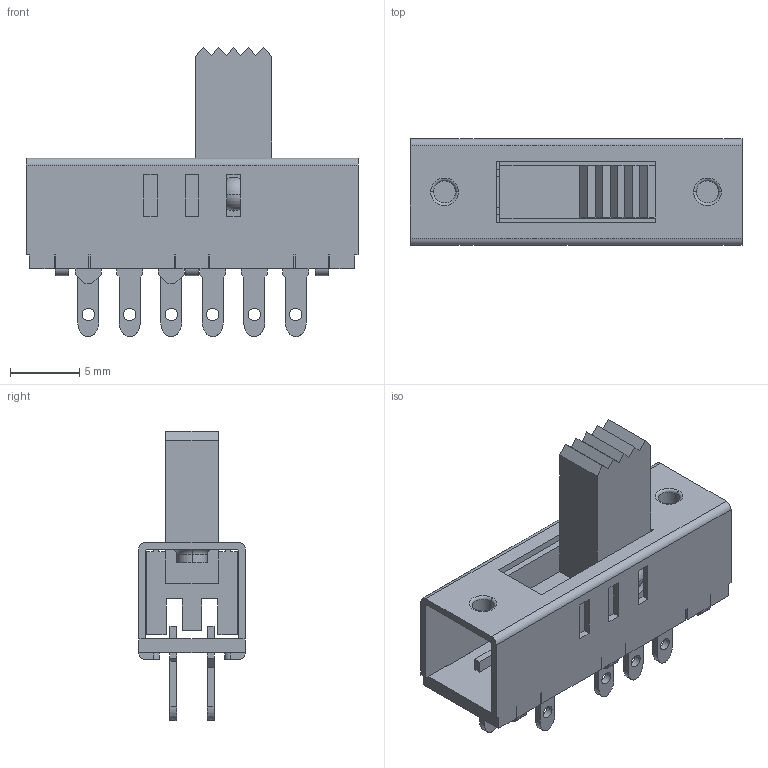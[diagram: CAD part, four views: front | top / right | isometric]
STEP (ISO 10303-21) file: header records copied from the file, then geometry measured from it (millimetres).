
FILE_DESCRIPTION((''),'2;1');
FILE_NAME('MFS231P-POM_ASM','2017-02-15T',('Administrator'),(''),'PRO/ENGINEER BY PARAMETRIC TECHNOLOGY CORPORATION, 2009400','PRO/ENGINEER BY PARAMETRIC TECHNOLOGY CORPORATION, 2009400','');
FILE_SCHEMA(('CONFIG_CONTROL_DESIGN'));
Length unit declared in the file: millimetre
Products named in the file (1): MFS231P-POM_ASM
Bounding box: 24 x 7.7 x 20.9 mm (x, y, z)
Volume: 1032.9 mm3; surface area: 2529.7 mm2
Topology: 2 solids, 2 shells, 363 faces, 1045 edges, 679 vertices
Faces by surface type: plane 294, cylinder 50, torus 8, extrusion 8, sphere 3
Entity records: 12037 total; most frequent: CARTESIAN_POINT 2311, ORIENTED_EDGE 2082, DIRECTION 1877, EDGE_CURVE 1041, VECTOR 899, LINE 891, VERTEX_POINT 679, AXIS2_PLACEMENT_3D 489
